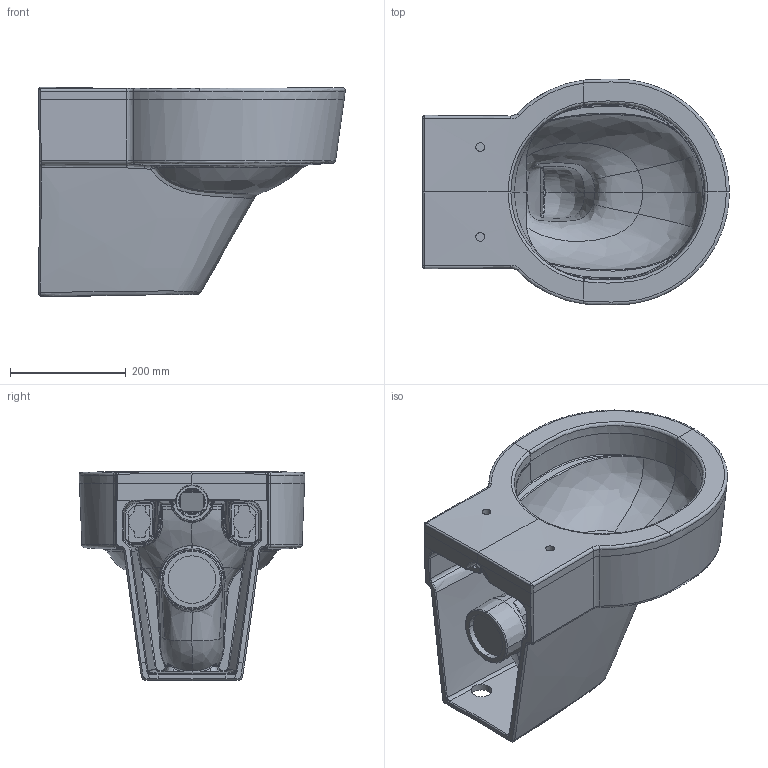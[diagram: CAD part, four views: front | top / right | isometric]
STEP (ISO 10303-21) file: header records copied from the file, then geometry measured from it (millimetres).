
FILE_DESCRIPTION(('CATIA V5 STEP'),'2;1');
FILE_NAME('C:\DATEN\HY20281......1_A.stp','2016-05-02T15:19:43+00:00',('none'),('none'),'CATIA Version 5 Release 19 SP 9 (IN-10)','CATIA V5 STEP AP203','none');
FILE_SCHEMA(('CONFIG_CONTROL_DESIGN'));
Products named in the file (1): HY20281......1_A
Bounding box: 529.29 x 389.98 x 361.56 mm (x, y, z)
Volume: 15782144.6 mm3; surface area: 1151213 mm2
Topology: 1 solids, 1 shells, 706 faces, 1808 edges, 1080 vertices
Faces by surface type: bspline 450, plane 111, cylinder 96, sphere 16, torus 13, extrusion 10, cone 10
Entity records: 100400 total; most frequent: CARTESIAN_POINT 87974, ORIENTED_EDGE 3576, EDGE_CURVE 1788, B_SPLINE_CURVE_WITH_KNOTS 1313, VERTEX_POINT 1080, DIRECTION 832, EDGE_LOOP 716, ADVANCED_FACE 706
